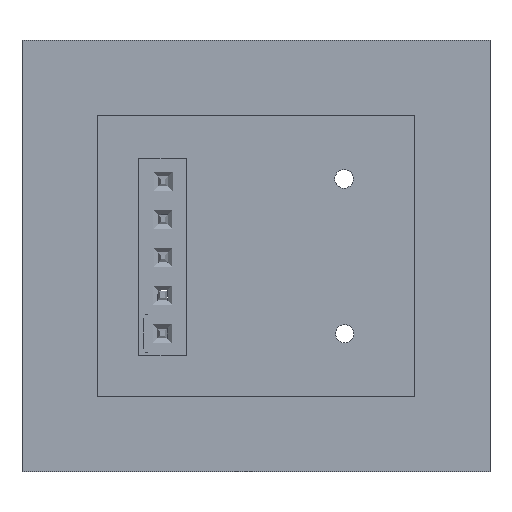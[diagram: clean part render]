
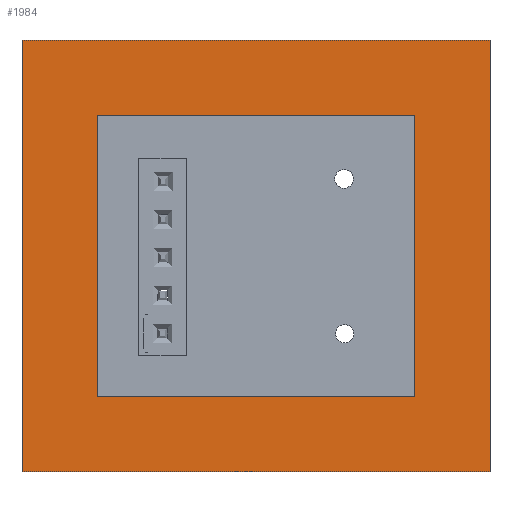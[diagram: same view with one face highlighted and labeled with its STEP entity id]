
A CAD part, front view. The second image highlights one B-rep face of the part: STEP entity #1984.
In plain terms, the highlighted planar face has unit normal (0, -1, 0).
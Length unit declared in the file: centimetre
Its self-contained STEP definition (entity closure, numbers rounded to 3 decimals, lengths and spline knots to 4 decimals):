
#562=ORIENTED_EDGE('',*,*,#803,.F.);
#563=ORIENTED_EDGE('',*,*,#811,.T.);
#564=ORIENTED_EDGE('',*,*,#808,.F.);
#565=ORIENTED_EDGE('',*,*,#806,.F.);
#566=ORIENTED_EDGE('',*,*,#860,.F.);
#567=ORIENTED_EDGE('',*,*,#861,.T.);
#568=ORIENTED_EDGE('',*,*,#862,.T.);
#569=ORIENTED_EDGE('',*,*,#863,.T.);
#803=EDGE_CURVE('',#1005,#1003,#1205,.T.);
#806=EDGE_CURVE('',#1003,#1007,#1208,.T.);
#808=EDGE_CURVE('',#1007,#1009,#1210,.T.);
#811=EDGE_CURVE('',#1005,#1009,#1213,.T.);
#860=EDGE_CURVE('',#1046,#1047,#1246,.T.);
#861=EDGE_CURVE('',#1046,#1048,#1247,.T.);
#862=EDGE_CURVE('',#1048,#1049,#1248,.T.);
#863=EDGE_CURVE('',#1049,#1047,#1249,.T.);
#1003=VERTEX_POINT('',#3228);
#1005=VERTEX_POINT('',#3232);
#1007=VERTEX_POINT('',#3237);
#1009=VERTEX_POINT('',#3244);
#1046=VERTEX_POINT('',#3354);
#1047=VERTEX_POINT('',#3355);
#1048=VERTEX_POINT('',#3357);
#1049=VERTEX_POINT('',#3359);
#1205=LINE('',#3233,#1409);
#1208=LINE('',#3239,#1412);
#1210=LINE('',#3243,#1414);
#1213=LINE('',#3248,#1417);
#1246=LINE('',#3353,#1450);
#1247=LINE('',#3356,#1451);
#1248=LINE('',#3358,#1452);
#1249=LINE('',#3360,#1453);
#1409=VECTOR('',#2670,100.);
#1412=VECTOR('',#2675,100.);
#1414=VECTOR('',#2679,100.);
#1417=VECTOR('',#2684,100.);
#1450=VECTOR('',#2789,100.);
#1451=VECTOR('',#2790,100.);
#1452=VECTOR('',#2791,100.);
#1453=VECTOR('',#2792,100.);
#1612=EDGE_LOOP('',(#562,#563,#564,#565));
#1613=EDGE_LOOP('',(#566,#567,#568,#569));
#1780=FACE_BOUND('',#1612,.T.);
#1781=FACE_BOUND('',#1613,.T.);
#1872=PLANE('',#2246);
#1984=ADVANCED_FACE('',(#1780,#1781),#1872,.F.);
#2246=AXIS2_PLACEMENT_3D('',#3352,#2787,#2788);
#2670=DIRECTION('',(-1.,0.,0.));
#2675=DIRECTION('',(0.,0.,-1.));
#2679=DIRECTION('',(1.,0.,0.));
#2684=DIRECTION('',(0.,0.,-1.));
#2787=DIRECTION('',(0.,1.,0.));
#2788=DIRECTION('',(1.,0.,0.));
#2789=DIRECTION('',(0.,0.,-1.));
#2790=DIRECTION('',(-1.,0.,0.));
#2791=DIRECTION('',(0.,0.,-1.));
#2792=DIRECTION('',(1.,0.,0.));
#3228=CARTESIAN_POINT('',(-2.212,-3.923,1.2387));
#3232=CARTESIAN_POINT('',(-0.0991,-3.923,1.2387));
#3233=CARTESIAN_POINT('',(-1.1555,-3.923,1.2387));
#3237=CARTESIAN_POINT('',(-2.212,-3.923,-0.6334));
#3239=CARTESIAN_POINT('',(-2.212,-3.923,0.3026));
#3243=CARTESIAN_POINT('',(-1.1555,-3.923,-0.6334));
#3244=CARTESIAN_POINT('',(-0.0991,-3.923,-0.6334));
#3248=CARTESIAN_POINT('',(-0.0991,-3.923,0.3026));
#3352=CARTESIAN_POINT('',(0.4009,-3.923,0.3026));
#3353=CARTESIAN_POINT('',(0.4009,-3.923,0.3026));
#3354=CARTESIAN_POINT('',(0.4009,-3.923,1.7387));
#3355=CARTESIAN_POINT('',(0.4009,-3.923,-1.1334));
#3356=CARTESIAN_POINT('',(-1.1555,-3.923,1.7387));
#3357=CARTESIAN_POINT('',(-2.712,-3.923,1.7387));
#3358=CARTESIAN_POINT('',(-2.712,-3.923,0.3026));
#3359=CARTESIAN_POINT('',(-2.712,-3.923,-1.1334));
#3360=CARTESIAN_POINT('',(-1.1555,-3.923,-1.1334));
